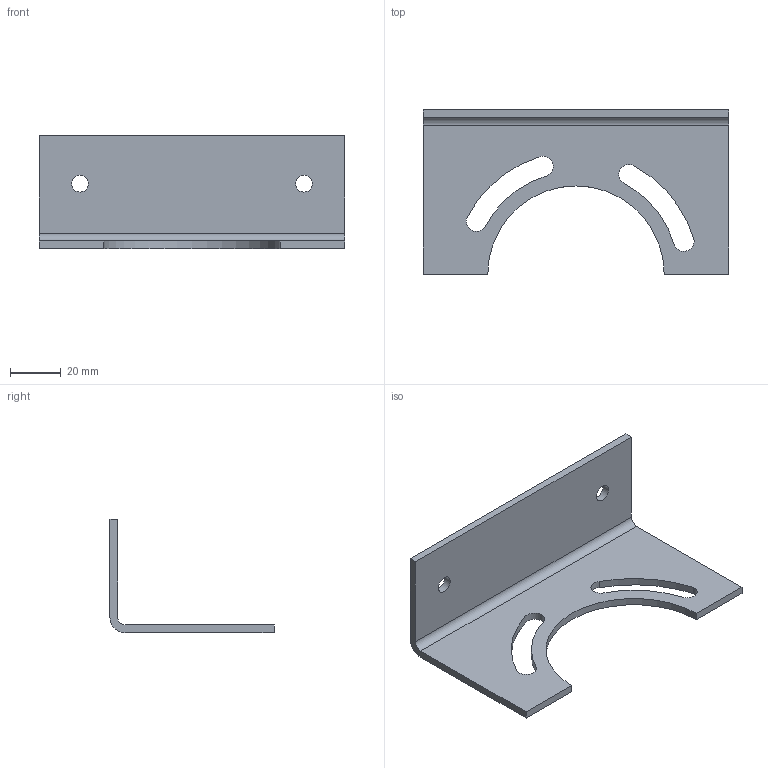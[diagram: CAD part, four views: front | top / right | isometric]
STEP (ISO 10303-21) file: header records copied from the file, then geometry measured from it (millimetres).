
FILE_DESCRIPTION((''),'2;1');
FILE_NAME('U:\AirCom-Produktdokumentation\Winkel\Zeichnungen\CAD-Aircom\3D\B-BW00-32.stp','2011-04-20T10:19:44',('Frank Schroers'),(''),'Autodesk Inventor 2008','Autodesk Inventor 2008','');
FILE_SCHEMA(('AUTOMOTIVE_DESIGN { 1 0 10303 214 1 1 1 1 }'));
Length unit declared in the file: millimetre
Products named in the file (1): B-BW00-32
Bounding box: 120 x 64.5 x 44.5 mm (x, y, z)
Volume: 29634.9 mm3; surface area: 21912.7 mm2
Topology: 1 solids, 1 shells, 22 faces, 60 edges, 40 vertices
Faces by surface type: cylinder 13, plane 9
Full cylindrical faces by diameter (mm): 6.6 x2
Entity records: 742 total; most frequent: DIRECTION 130, CARTESIAN_POINT 121, ORIENTED_EDGE 116, EDGE_CURVE 58, AXIS2_PLACEMENT_3D 49, VERTEX_POINT 40, VECTOR 32, LINE 32
